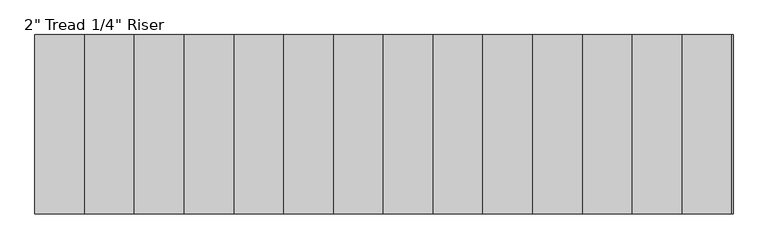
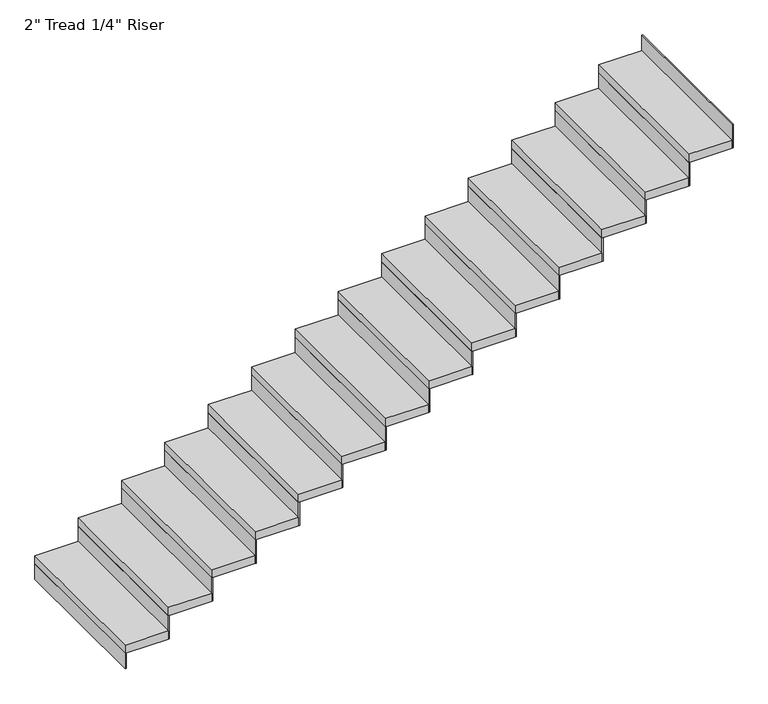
"""IFC4 building model written with IfcOpenShell, lengths in millimetres: stair flight geometry."""

from ifc_helpers import new_model, si_unit, frame, origin, origin_with_axes, place, context, project, spatial, polyline, outline, extrude, source, transform, mapped, element, save


def stair_flight_daf749ab(model_context):
    return source(origin(), model_context, "Body", "SweptSolid", [
        extrude(outline(polyline([(84475.4645262, -2400.7855758), (84469.1145262, -2400.7855758), (84469.1145262, -1486.3855758), (84475.4645262, -1486.3855758), (84475.4645262, -2400.7855758)])), origin_with_axes(), (0.0, 0.0, 1.0), 94.3428571),
        extrude(outline(polyline([(84723.1145262, -1486.3855758), (84723.1145262, -2400.7855758), (84469.1145262, -2400.7855758), (84469.1145262, -1486.3855758), (84723.1145262, -1486.3855758)])), frame((0.0, 0.0, 94.3428571), z_axis=(0.0, 0.0, 1.0), x_axis=(1.0, 0.0, 0.0)), (0.0, 0.0, 1.0), 50.8),
        extrude(outline(polyline([(84729.4645262, -2400.7855758), (84723.1145262, -2400.7855758), (84723.1145262, -1486.3855758), (84729.4645262, -1486.3855758), (84729.4645262, -2400.7855758)])), frame((0.0, 0.0, 94.3428571), z_axis=(0.0, 0.0, 1.0), x_axis=(1.0, 0.0, 0.0)), (0.0, 0.0, 1.0), 145.1428571),
        extrude(outline(polyline([(84977.1145262, -1486.3855758), (84977.1145262, -2400.7855758), (84723.1145262, -2400.7855758), (84723.1145262, -1486.3855758), (84977.1145262, -1486.3855758)])), frame((0.0, 0.0, 239.4857143), z_axis=(0.0, 0.0, 1.0), x_axis=(1.0, 0.0, 0.0)), (0.0, 0.0, 1.0), 50.8),
        extrude(outline(polyline([(84983.4645262, -2400.7855758), (84977.1145262, -2400.7855758), (84977.1145262, -1486.3855758), (84983.4645262, -1486.3855758), (84983.4645262, -2400.7855758)])), frame((0.0, 0.0, 239.4857143), z_axis=(0.0, 0.0, 1.0), x_axis=(1.0, 0.0, 0.0)), (0.0, 0.0, 1.0), 145.1428571),
        extrude(outline(polyline([(85231.1145262, -1486.3855758), (85231.1145262, -2400.7855758), (84977.1145262, -2400.7855758), (84977.1145262, -1486.3855758), (85231.1145262, -1486.3855758)])), frame((0.0, 0.0, 384.6285714), z_axis=(0.0, 0.0, 1.0), x_axis=(1.0, 0.0, 0.0)), (0.0, 0.0, 1.0), 50.8),
        extrude(outline(polyline([(85237.4645262, -2400.7855758), (85231.1145262, -2400.7855758), (85231.1145262, -1486.3855758), (85237.4645262, -1486.3855758), (85237.4645262, -2400.7855758)])), frame((0.0, 0.0, 384.6285714), z_axis=(0.0, 0.0, 1.0), x_axis=(1.0, 0.0, 0.0)), (0.0, 0.0, 1.0), 145.1428571),
        extrude(outline(polyline([(85485.1145262, -1486.3855758), (85485.1145262, -2400.7855758), (85231.1145262, -2400.7855758), (85231.1145262, -1486.3855758), (85485.1145262, -1486.3855758)])), frame((0.0, 0.0, 529.7714286), z_axis=(0.0, 0.0, 1.0), x_axis=(1.0, 0.0, 0.0)), (0.0, 0.0, 1.0), 50.8),
        extrude(outline(polyline([(85491.4645262, -2400.7855758), (85485.1145262, -2400.7855758), (85485.1145262, -1486.3855758), (85491.4645262, -1486.3855758), (85491.4645262, -2400.7855758)])), frame((0.0, 0.0, 529.7714286), z_axis=(0.0, 0.0, 1.0), x_axis=(1.0, 0.0, 0.0)), (0.0, 0.0, 1.0), 145.1428571),
        extrude(outline(polyline([(85739.1145262, -1486.3855758), (85739.1145262, -2400.7855758), (85485.1145262, -2400.7855758), (85485.1145262, -1486.3855758), (85739.1145262, -1486.3855758)])), frame((0.0, 0.0, 674.9142857), z_axis=(0.0, 0.0, 1.0), x_axis=(1.0, 0.0, 0.0)), (0.0, 0.0, 1.0), 50.8),
        extrude(outline(polyline([(85745.4645262, -2400.7855758), (85739.1145262, -2400.7855758), (85739.1145262, -1486.3855758), (85745.4645262, -1486.3855758), (85745.4645262, -2400.7855758)])), frame((0.0, 0.0, 674.9142857), z_axis=(0.0, 0.0, 1.0), x_axis=(1.0, 0.0, 0.0)), (0.0, 0.0, 1.0), 145.1428571),
        extrude(outline(polyline([(85993.1145262, -1486.3855758), (85993.1145262, -2400.7855758), (85739.1145262, -2400.7855758), (85739.1145262, -1486.3855758), (85993.1145262, -1486.3855758)])), frame((0.0, 0.0, 820.0571429), z_axis=(0.0, 0.0, 1.0), x_axis=(1.0, 0.0, 0.0)), (0.0, 0.0, 1.0), 50.8),
        extrude(outline(polyline([(85999.4645262, -2400.7855758), (85993.1145262, -2400.7855758), (85993.1145262, -1486.3855758), (85999.4645262, -1486.3855758), (85999.4645262, -2400.7855758)])), frame((0.0, 0.0, 820.0571429), z_axis=(0.0, 0.0, 1.0), x_axis=(1.0, 0.0, 0.0)), (0.0, 0.0, 1.0), 145.1428571),
        extrude(outline(polyline([(86247.1145262, -1486.3855758), (86247.1145262, -2400.7855758), (85993.1145262, -2400.7855758), (85993.1145262, -1486.3855758), (86247.1145262, -1486.3855758)])), frame((0.0, 0.0, 965.2), z_axis=(0.0, 0.0, 1.0), x_axis=(1.0, 0.0, 0.0)), (0.0, 0.0, 1.0), 50.8),
        extrude(outline(polyline([(86253.4645262, -2400.7855758), (86247.1145262, -2400.7855758), (86247.1145262, -1486.3855758), (86253.4645262, -1486.3855758), (86253.4645262, -2400.7855758)])), frame((0.0, 0.0, 965.2), z_axis=(0.0, 0.0, 1.0), x_axis=(1.0, 0.0, 0.0)), (0.0, 0.0, 1.0), 145.1428571),
        extrude(outline(polyline([(86501.1145262, -1486.3855758), (86501.1145262, -2400.7855758), (86247.1145262, -2400.7855758), (86247.1145262, -1486.3855758), (86501.1145262, -1486.3855758)])), frame((0.0, 0.0, 1110.3428571), z_axis=(0.0, 0.0, 1.0), x_axis=(1.0, 0.0, 0.0)), (0.0, 0.0, 1.0), 50.8),
        extrude(outline(polyline([(86507.4645262, -2400.7855758), (86501.1145262, -2400.7855758), (86501.1145262, -1486.3855758), (86507.4645262, -1486.3855758), (86507.4645262, -2400.7855758)])), frame((0.0, 0.0, 1110.3428571), z_axis=(0.0, 0.0, 1.0), x_axis=(1.0, 0.0, 0.0)), (0.0, 0.0, 1.0), 145.1428571),
        extrude(outline(polyline([(86755.1145262, -1486.3855758), (86755.1145262, -2400.7855758), (86501.1145262, -2400.7855758), (86501.1145262, -1486.3855758), (86755.1145262, -1486.3855758)])), frame((0.0, 0.0, 1255.4857143), z_axis=(0.0, 0.0, 1.0), x_axis=(1.0, 0.0, 0.0)), (0.0, 0.0, 1.0), 50.8),
        extrude(outline(polyline([(86761.4645262, -2400.7855758), (86755.1145262, -2400.7855758), (86755.1145262, -1486.3855758), (86761.4645262, -1486.3855758), (86761.4645262, -2400.7855758)])), frame((0.0, 0.0, 1255.4857143), z_axis=(0.0, 0.0, 1.0), x_axis=(1.0, 0.0, 0.0)), (0.0, 0.0, 1.0), 145.1428571),
        extrude(outline(polyline([(87009.1145262, -1486.3855758), (87009.1145262, -2400.7855758), (86755.1145262, -2400.7855758), (86755.1145262, -1486.3855758), (87009.1145262, -1486.3855758)])), frame((0.0, 0.0, 1400.6285714), z_axis=(0.0, 0.0, 1.0), x_axis=(1.0, 0.0, 0.0)), (0.0, 0.0, 1.0), 50.8),
        extrude(outline(polyline([(87015.4645262, -2400.7855758), (87009.1145262, -2400.7855758), (87009.1145262, -1486.3855758), (87015.4645262, -1486.3855758), (87015.4645262, -2400.7855758)])), frame((0.0, 0.0, 1400.6285714), z_axis=(0.0, 0.0, 1.0), x_axis=(1.0, 0.0, 0.0)), (0.0, 0.0, 1.0), 145.1428571),
        extrude(outline(polyline([(87263.1145262, -1486.3855758), (87263.1145262, -2400.7855758), (87009.1145262, -2400.7855758), (87009.1145262, -1486.3855758), (87263.1145262, -1486.3855758)])), frame((0.0, 0.0, 1545.7714286), z_axis=(0.0, 0.0, 1.0), x_axis=(1.0, 0.0, 0.0)), (0.0, 0.0, 1.0), 50.8),
        extrude(outline(polyline([(87269.4645262, -2400.7855758), (87263.1145262, -2400.7855758), (87263.1145262, -1486.3855758), (87269.4645262, -1486.3855758), (87269.4645262, -2400.7855758)])), frame((0.0, 0.0, 1545.7714286), z_axis=(0.0, 0.0, 1.0), x_axis=(1.0, 0.0, 0.0)), (0.0, 0.0, 1.0), 145.1428571),
        extrude(outline(polyline([(87517.1145262, -1486.3855758), (87517.1145262, -2400.7855758), (87263.1145262, -2400.7855758), (87263.1145262, -1486.3855758), (87517.1145262, -1486.3855758)])), frame((0.0, 0.0, 1690.9142857), z_axis=(0.0, 0.0, 1.0), x_axis=(1.0, 0.0, 0.0)), (0.0, 0.0, 1.0), 50.8),
        extrude(outline(polyline([(87523.4645262, -2400.7855758), (87517.1145262, -2400.7855758), (87517.1145262, -1486.3855758), (87523.4645262, -1486.3855758), (87523.4645262, -2400.7855758)])), frame((0.0, 0.0, 1690.9142857), z_axis=(0.0, 0.0, 1.0), x_axis=(1.0, 0.0, 0.0)), (0.0, 0.0, 1.0), 145.1428571),
        extrude(outline(polyline([(87771.1145262, -1486.3855758), (87771.1145262, -2400.7855758), (87517.1145262, -2400.7855758), (87517.1145262, -1486.3855758), (87771.1145262, -1486.3855758)])), frame((0.0, 0.0, 1836.0571429), z_axis=(0.0, 0.0, 1.0), x_axis=(1.0, 0.0, 0.0)), (0.0, 0.0, 1.0), 50.8),
        extrude(outline(polyline([(87777.4645262, -2400.7855758), (87771.1145262, -2400.7855758), (87771.1145262, -1486.3855758), (87777.4645262, -1486.3855758), (87777.4645262, -2400.7855758)])), frame((0.0, 0.0, 1836.0571429), z_axis=(0.0, 0.0, 1.0), x_axis=(1.0, 0.0, 0.0)), (0.0, 0.0, 1.0), 145.1428571),
        extrude(outline(polyline([(88031.4645262, -2400.7855758), (88025.1145262, -2400.7855758), (88025.1145262, -1486.3855758), (88031.4645262, -1486.3855758), (88031.4645262, -2400.7855758)])), frame((0.0, 0.0, 1981.2), z_axis=(0.0, 0.0, 1.0), x_axis=(1.0, 0.0, 0.0)), (0.0, 0.0, 1.0), 145.1428571),
        extrude(outline(polyline([(88025.1145262, -1486.3855758), (88025.1145262, -2400.7855758), (87771.1145262, -2400.7855758), (87771.1145262, -1486.3855758), (88025.1145262, -1486.3855758)])), frame((0.0, 0.0, 1981.2), z_axis=(0.0, 0.0, 1.0), x_axis=(1.0, 0.0, 0.0)), (0.0, 0.0, 1.0), 50.8),
    ])


if __name__ == "__main__":
    model = new_model("IFC4")
    model_context = context("Model", 3, world=origin())
    ifc_project = project(units=[si_unit("LENGTHUNIT", "METRE", prefix="MILLI")], contexts=[model_context])
    site = spatial("IfcSite", under=ifc_project)
    building = spatial("IfcBuilding", under=site)
    placement = place(None, origin())
    stair_flight_shape = stair_flight_daf749ab(model_context)
    element("IfcStairFlight", 1, ObjectType="2\" Tread 1/4\" Riser", at=placement, inside=building, context=model_context, shape_type="MappedRepresentation", body=[
        mapped(stair_flight_shape, transform((0.0, 0.0, 0.0), x_axis=(1.0, 0.0, 0.0), y_axis=(0.0, 1.0, 0.0), z_axis=(0.0, 0.0, 1.0))),
    ])
    save(model, "model.ifc")
